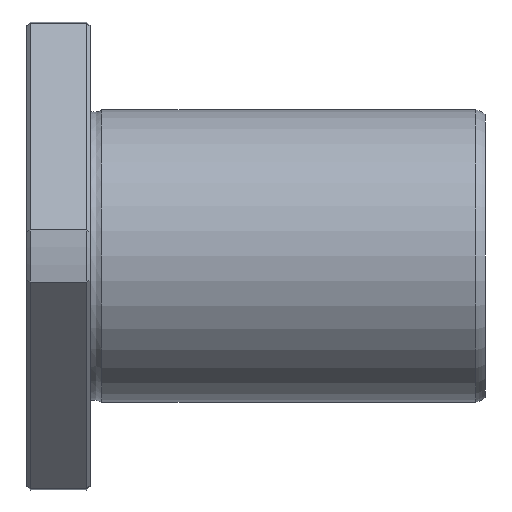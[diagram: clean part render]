
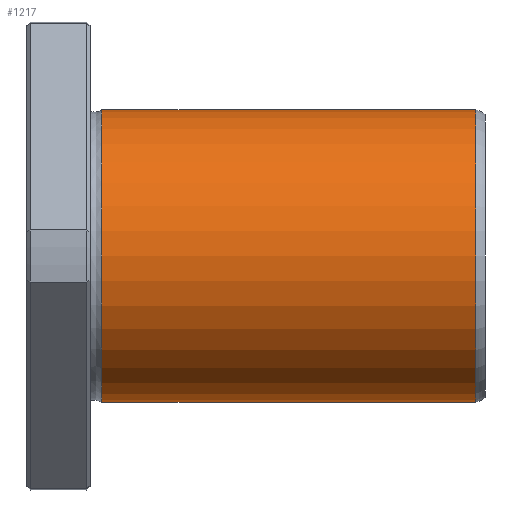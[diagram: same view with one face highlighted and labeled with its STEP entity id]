
A CAD part, front view. The second image highlights one B-rep face of the part: STEP entity #1217.
In plain terms, the highlighted cylindrical face has radius 30 mm (diameter 60 mm), a full revolution.
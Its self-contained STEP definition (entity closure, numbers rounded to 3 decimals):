
#1183=CARTESIAN_POINT('',(92.016,0.0,30.));
#1184=VERTEX_POINT('',#1183);
#1185=CARTESIAN_POINT('',(92.016,0.0,0.0));
#1186=DIRECTION('',(-1.0,0.0,0.0));
#1187=DIRECTION('',(0.0,0.0,1.0));
#1188=AXIS2_PLACEMENT_3D('',#1185,#1186,#1187);
#1189=CIRCLE('',#1188,30.);
#1190=EDGE_CURVE('',#1184,#1184,#1189,.T.);
#1198=CARTESIAN_POINT('',(53.708,0.0,0.0));
#1199=DIRECTION('',(-1.0,0.0,0.0));
#1200=DIRECTION('',(0.0,0.0,1.0));
#1201=AXIS2_PLACEMENT_3D('',#1198,#1199,#1200);
#1202=CYLINDRICAL_SURFACE('',#1201,30.);
#1203=CARTESIAN_POINT('',(15.4,0.0,30.));
#1204=VERTEX_POINT('',#1203);
#1205=CARTESIAN_POINT('',(15.4,0.0,0.0));
#1206=DIRECTION('',(-1.0,0.0,0.0));
#1207=DIRECTION('',(0.0,0.0,1.0));
#1208=AXIS2_PLACEMENT_3D('',#1205,#1206,#1207);
#1209=CIRCLE('',#1208,30.);
#1210=EDGE_CURVE('',#1204,#1204,#1209,.T.);
#1211=ORIENTED_EDGE('',*,*,#1210,.F.);
#1212=EDGE_LOOP('',(#1211));
#1213=FACE_OUTER_BOUND('',#1212,.T.);
#1214=ORIENTED_EDGE('',*,*,#1190,.T.);
#1215=EDGE_LOOP('',(#1214));
#1216=FACE_BOUND('',#1215,.T.);
#1217=ADVANCED_FACE('',(#1213,#1216),#1202,.T.);
